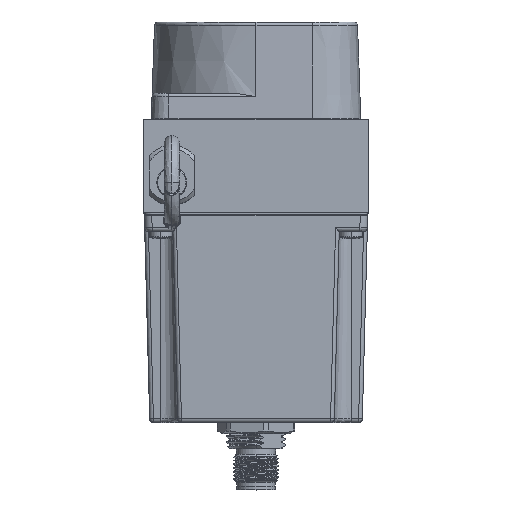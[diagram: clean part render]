
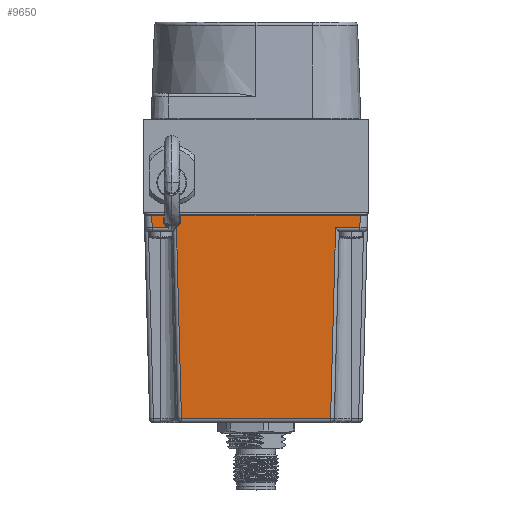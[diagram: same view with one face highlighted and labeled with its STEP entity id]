
A CAD part, top view. The second image highlights one B-rep face of the part: STEP entity #9650.
In plain terms, the highlighted planar face has unit normal (0, -0.026, 1).
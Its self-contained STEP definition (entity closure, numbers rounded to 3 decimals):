
#189 = VECTOR ( 'NONE', #32948, 1000. ) ;
#681 = CARTESIAN_POINT ( 'NONE',  ( -0.05, -16.526, 29.758 ) ) ;
#1216 = ORIENTED_EDGE ( 'NONE', *, *, #42042, .T. ) ;
#1320 = AXIS2_PLACEMENT_3D ( 'NONE', #29027, #9346, #12711 ) ;
#2782 = LINE ( 'NONE', #21087, #9543 ) ;
#3175 = FACE_OUTER_BOUND ( 'NONE', #27750, .T. ) ;
#3226 = CARTESIAN_POINT ( 'NONE',  ( -21.261, -16.526, 29.758 ) ) ;
#4318 = CARTESIAN_POINT ( 'NONE',  ( 27.758, -16.526, 29.758 ) ) ;
#4402 = DIRECTION ( 'NONE',  ( 0.026, 0.999, 0.026 ) ) ;
#5343 = LINE ( 'NONE', #32647, #189 ) ;
#6707 = VERTEX_POINT ( 'NONE', #3226 ) ;
#6795 = LINE ( 'NONE', #4318, #39087 ) ;
#7126 = CARTESIAN_POINT ( 'NONE',  ( -27.845, -13.205, 29.845 ) ) ;
#8273 = ORIENTED_EDGE ( 'NONE', *, *, #16595, .T. ) ;
#9346 = DIRECTION ( 'NONE',  ( 0., -0.026, 1. ) ) ;
#9543 = VECTOR ( 'NONE', #4402, 1000. ) ;
#9650 = ADVANCED_FACE ( 'NONE', ( #3175 ), #38919, .T. ) ;
#10327 = LINE ( 'NONE', #25974, #24382 ) ;
#10691 = CARTESIAN_POINT ( 'NONE',  ( -27.758, -16.526, 29.758 ) ) ;
#10785 = CARTESIAN_POINT ( 'NONE',  ( 27.845, -13.205, 29.845 ) ) ;
#11373 = ORIENTED_EDGE ( 'NONE', *, *, #24303, .T. ) ;
#11412 = EDGE_CURVE ( 'NONE', #6707, #38996, #10327, .T. ) ;
#12711 = DIRECTION ( 'NONE',  ( 0., -1., -0.026 ) ) ;
#13735 = VERTEX_POINT ( 'NONE', #22880 ) ;
#16348 = LINE ( 'NONE', #681, #40358 ) ;
#16373 = VERTEX_POINT ( 'NONE', #23947 ) ;
#16595 = EDGE_CURVE ( 'NONE', #36063, #6707, #26883, .T. ) ;
#18109 = EDGE_CURVE ( 'NONE', #16373, #38996, #5343, .T. ) ;
#18561 = VECTOR ( 'NONE', #27646, 1000. ) ;
#20334 = ORIENTED_EDGE ( 'NONE', *, *, #11412, .T. ) ;
#20577 = VECTOR ( 'NONE', #39762, 1000. ) ;
#21065 = CARTESIAN_POINT ( 'NONE',  ( -0.05, -13.205, 29.845 ) ) ;
#21087 = CARTESIAN_POINT ( 'NONE',  ( 19.926, -67.526, 28.422 ) ) ;
#21699 = LINE ( 'NONE', #21065, #18561 ) ;
#22880 = CARTESIAN_POINT ( 'NONE',  ( -27.845, -13.205, 29.845 ) ) ;
#23295 = CARTESIAN_POINT ( 'NONE',  ( -0.05, -16.526, 29.758 ) ) ;
#23491 = EDGE_CURVE ( 'NONE', #25258, #13735, #21699, .T. ) ;
#23914 = ORIENTED_EDGE ( 'NONE', *, *, #18109, .F. ) ;
#23947 = CARTESIAN_POINT ( 'NONE',  ( 19.926, -67.526, 28.422 ) ) ;
#24303 = EDGE_CURVE ( 'NONE', #40305, #38490, #16348, .T. ) ;
#24382 = VECTOR ( 'NONE', #39945, 1000. ) ;
#25258 = VERTEX_POINT ( 'NONE', #10785 ) ;
#25271 = EDGE_CURVE ( 'NONE', #16373, #40305, #2782, .T. ) ;
#25974 = CARTESIAN_POINT ( 'NONE',  ( -21.261, -16.526, 29.758 ) ) ;
#26033 = CARTESIAN_POINT ( 'NONE',  ( 27.758, -16.526, 29.758 ) ) ;
#26883 = LINE ( 'NONE', #23295, #20577 ) ;
#27646 = DIRECTION ( 'NONE',  ( -1., 0., 0. ) ) ;
#27750 = EDGE_LOOP ( 'NONE', ( #8273, #20334, #23914, #28246, #11373, #1216, #31626, #36790 ) ) ;
#28246 = ORIENTED_EDGE ( 'NONE', *, *, #25271, .T. ) ;
#28860 = EDGE_CURVE ( 'NONE', #13735, #36063, #42411, .T. ) ;
#29027 = CARTESIAN_POINT ( 'NONE',  ( -0.05, -13., 29.85 ) ) ;
#30451 = DIRECTION ( 'NONE',  ( 0.026, -0.999, -0.026 ) ) ;
#31626 = ORIENTED_EDGE ( 'NONE', *, *, #23491, .T. ) ;
#32647 = CARTESIAN_POINT ( 'NONE',  ( 29.85, -67.526, 28.422 ) ) ;
#32948 = DIRECTION ( 'NONE',  ( -1., 0., 0. ) ) ;
#32952 = CARTESIAN_POINT ( 'NONE',  ( -19.926, -67.526, 28.422 ) ) ;
#33602 = VECTOR ( 'NONE', #30451, 1000. ) ;
#34203 = DIRECTION ( 'NONE',  ( 1., 0., 0. ) ) ;
#36063 = VERTEX_POINT ( 'NONE', #10691 ) ;
#36790 = ORIENTED_EDGE ( 'NONE', *, *, #28860, .T. ) ;
#37665 = DIRECTION ( 'NONE',  ( 0.026, 0.999, 0.026 ) ) ;
#38490 = VERTEX_POINT ( 'NONE', #26033 ) ;
#38919 = PLANE ( 'NONE',  #1320 ) ;
#38996 = VERTEX_POINT ( 'NONE', #32952 ) ;
#39087 = VECTOR ( 'NONE', #37665, 1000. ) ;
#39762 = DIRECTION ( 'NONE',  ( 1., 0., 0. ) ) ;
#39945 = DIRECTION ( 'NONE',  ( 0.026, -0.999, -0.026 ) ) ;
#40305 = VERTEX_POINT ( 'NONE', #42980 ) ;
#40358 = VECTOR ( 'NONE', #34203, 1000. ) ;
#42042 = EDGE_CURVE ( 'NONE', #38490, #25258, #6795, .T. ) ;
#42411 = LINE ( 'NONE', #7126, #33602 ) ;
#42980 = CARTESIAN_POINT ( 'NONE',  ( 21.261, -16.526, 29.758 ) ) ;
